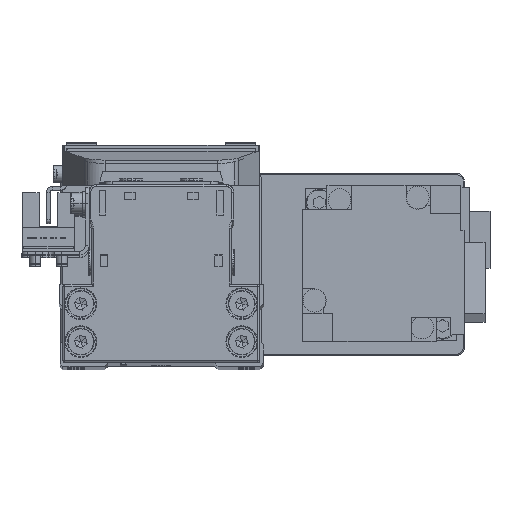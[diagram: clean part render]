
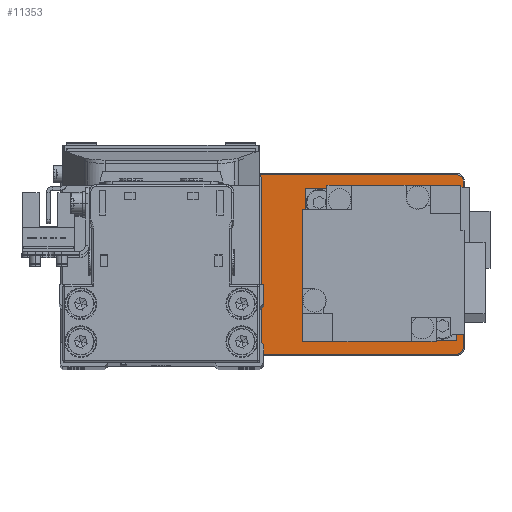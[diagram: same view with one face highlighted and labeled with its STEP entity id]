
A CAD part, top view. The second image highlights one B-rep face of the part: STEP entity #11353.
In plain terms, the highlighted planar face has unit normal (0, 0, 1).
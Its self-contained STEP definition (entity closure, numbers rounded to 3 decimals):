
#257 = EDGE_CURVE ( 'NONE', #39353, #20734, #26054, .T. ) ;
#439 = DIRECTION ( 'NONE',  ( 1., 0., 0. ) ) ;
#468 = EDGE_CURVE ( 'NONE', #15176, #7908, #20674, .T. ) ;
#718 = AXIS2_PLACEMENT_3D ( 'NONE', #22147, #34479, #6742 ) ;
#924 = LINE ( 'NONE', #13303, #2933 ) ;
#1296 = CIRCLE ( 'NONE', #23929, 1.7 ) ;
#1303 = DIRECTION ( 'NONE',  ( 0., 0., 1. ) ) ;
#2521 = CARTESIAN_POINT ( 'NONE',  ( -50., 23.7, 5. ) ) ;
#2780 = CARTESIAN_POINT ( 'NONE',  ( -50., -22., 5. ) ) ;
#2933 = VECTOR ( 'NONE', #25640, 1000. ) ;
#2996 = CARTESIAN_POINT ( 'NONE',  ( 51.7, -22., 5. ) ) ;
#3216 = AXIS2_PLACEMENT_3D ( 'NONE', #15842, #28196, #439 ) ;
#3332 = EDGE_LOOP ( 'NONE', ( #25758, #19381, #15311, #10023, #3749, #7030, #33551, #34114 ) ) ;
#3749 = ORIENTED_EDGE ( 'NONE', *, *, #10442, .T. ) ;
#4307 = VERTEX_POINT ( 'NONE', #29319 ) ;
#4320 = CARTESIAN_POINT ( 'NONE',  ( 50., -23.7, 5. ) ) ;
#4666 = CARTESIAN_POINT ( 'NONE',  ( -28., 0., 5. ) ) ;
#4702 = EDGE_CURVE ( 'NONE', #26954, #4307, #924, .T. ) ;
#4919 = CARTESIAN_POINT ( 'NONE',  ( -17.7, 0., 5. ) ) ;
#5280 = CARTESIAN_POINT ( 'NONE',  ( 50., 23.7, 5. ) ) ;
#6374 = ORIENTED_EDGE ( 'NONE', *, *, #16993, .T. ) ;
#6453 = ORIENTED_EDGE ( 'NONE', *, *, #468, .T. ) ;
#6681 = CARTESIAN_POINT ( 'NONE',  ( -28., 0., 5. ) ) ;
#6742 = DIRECTION ( 'NONE',  ( 1., 0., 0. ) ) ;
#7030 = ORIENTED_EDGE ( 'NONE', *, *, #30001, .T. ) ;
#7101 = CARTESIAN_POINT ( 'NONE',  ( -50., 23.7, 5. ) ) ;
#7115 = CIRCLE ( 'NONE', #29724, 10.3 ) ;
#7908 = VERTEX_POINT ( 'NONE', #22693 ) ;
#8233 = CARTESIAN_POINT ( 'NONE',  ( -38.3, 0., 5. ) ) ;
#8414 = CIRCLE ( 'NONE', #31061, 1.7 ) ;
#8677 = DIRECTION ( 'NONE',  ( 0., 0., 1. ) ) ;
#8915 = CARTESIAN_POINT ( 'NONE',  ( 50., -22., 5. ) ) ;
#10023 = ORIENTED_EDGE ( 'NONE', *, *, #23922, .T. ) ;
#10442 = EDGE_CURVE ( 'NONE', #25770, #18706, #30263, .T. ) ;
#10638 = DIRECTION ( 'NONE',  ( 0., 0., 1. ) ) ;
#10684 = DIRECTION ( 'NONE',  ( 0., -1., 0. ) ) ;
#11353 = ADVANCED_FACE ( 'NONE', ( #27083, #39435, #11716 ), #24065, .T. ) ;
#11716 = FACE_OUTER_BOUND ( 'NONE', #3332, .T. ) ;
#13003 = CARTESIAN_POINT ( 'NONE',  ( -51.7, 22., 5. ) ) ;
#13238 = VECTOR ( 'NONE', #16665, 1000. ) ;
#13303 = CARTESIAN_POINT ( 'NONE',  ( 51.7, 22., 5. ) ) ;
#13681 = DIRECTION ( 'NONE',  ( 1., 0., 0. ) ) ;
#14832 = CIRCLE ( 'NONE', #37482, 1.7 ) ;
#14880 = DIRECTION ( 'NONE',  ( -1., 0., 0. ) ) ;
#15138 = DIRECTION ( 'NONE',  ( 0., 0., 1. ) ) ;
#15176 = VERTEX_POINT ( 'NONE', #31646 ) ;
#15311 = ORIENTED_EDGE ( 'NONE', *, *, #4702, .T. ) ;
#15842 = CARTESIAN_POINT ( 'NONE',  ( 30., 0., 5. ) ) ;
#16665 = DIRECTION ( 'NONE',  ( 1., 0., 0. ) ) ;
#16993 = EDGE_CURVE ( 'NONE', #36305, #38362, #7115, .T. ) ;
#17019 = DIRECTION ( 'NONE',  ( 0., 0., -1. ) ) ;
#17854 = EDGE_LOOP ( 'NONE', ( #6374, #38492 ) ) ;
#18706 = VERTEX_POINT ( 'NONE', #7101 ) ;
#18869 = VERTEX_POINT ( 'NONE', #26521 ) ;
#19043 = DIRECTION ( 'NONE',  ( 0., 0., -1. ) ) ;
#19381 = ORIENTED_EDGE ( 'NONE', *, *, #33846, .T. ) ;
#20280 = EDGE_CURVE ( 'NONE', #38362, #36305, #39664, .T. ) ;
#20674 = CIRCLE ( 'NONE', #3216, 12.8 ) ;
#20734 = VERTEX_POINT ( 'NONE', #38007 ) ;
#21028 = DIRECTION ( 'NONE',  ( 1., 0., 0. ) ) ;
#21258 = DIRECTION ( 'NONE',  ( 0., 0., 1. ) ) ;
#22147 = CARTESIAN_POINT ( 'NONE',  ( 30., 0., 5. ) ) ;
#22232 = AXIS2_PLACEMENT_3D ( 'NONE', #6681, #19043, #31375 ) ;
#22693 = CARTESIAN_POINT ( 'NONE',  ( 17.2, 0., 5. ) ) ;
#22850 = VECTOR ( 'NONE', #14880, 1000. ) ;
#22978 = DIRECTION ( 'NONE',  ( 1., 0., 0. ) ) ;
#23170 = EDGE_CURVE ( 'NONE', #20734, #25136, #14832, .T. ) ;
#23402 = CIRCLE ( 'NONE', #28570, 1.7 ) ;
#23922 = EDGE_CURVE ( 'NONE', #4307, #25770, #8414, .T. ) ;
#23929 = AXIS2_PLACEMENT_3D ( 'NONE', #8915, #21258, #33604 ) ;
#24065 = PLANE ( 'NONE',  #35174 ) ;
#25136 = VERTEX_POINT ( 'NONE', #37770 ) ;
#25190 = VECTOR ( 'NONE', #10684, 1000. ) ;
#25640 = DIRECTION ( 'NONE',  ( 0., 1., 0. ) ) ;
#25758 = ORIENTED_EDGE ( 'NONE', *, *, #39106, .T. ) ;
#25770 = VERTEX_POINT ( 'NONE', #5280 ) ;
#26054 = LINE ( 'NONE', #38412, #25190 ) ;
#26521 = CARTESIAN_POINT ( 'NONE',  ( 50., -23.7, 5. ) ) ;
#26954 = VERTEX_POINT ( 'NONE', #2996 ) ;
#27083 = FACE_BOUND ( 'NONE', #35156, .T. ) ;
#27491 = DIRECTION ( 'NONE',  ( 1., 0., 0. ) ) ;
#27959 = EDGE_CURVE ( 'NONE', #7908, #15176, #35655, .T. ) ;
#28196 = DIRECTION ( 'NONE',  ( 0., 0., -1. ) ) ;
#28570 = AXIS2_PLACEMENT_3D ( 'NONE', #29041, #1303, #13681 ) ;
#29041 = CARTESIAN_POINT ( 'NONE',  ( -50., 22., 5. ) ) ;
#29319 = CARTESIAN_POINT ( 'NONE',  ( 51.7, 22., 5. ) ) ;
#29361 = DIRECTION ( 'NONE',  ( 1., 0., 0. ) ) ;
#29724 = AXIS2_PLACEMENT_3D ( 'NONE', #4666, #17019, #29361 ) ;
#30001 = EDGE_CURVE ( 'NONE', #18706, #39353, #23402, .T. ) ;
#30263 = LINE ( 'NONE', #2521, #22850 ) ;
#31061 = AXIS2_PLACEMENT_3D ( 'NONE', #38368, #10638, #22978 ) ;
#31375 = DIRECTION ( 'NONE',  ( 1., 0., 0. ) ) ;
#31646 = CARTESIAN_POINT ( 'NONE',  ( 42.8, 0., 5. ) ) ;
#32069 = LINE ( 'NONE', #4320, #13238 ) ;
#32465 = ORIENTED_EDGE ( 'NONE', *, *, #27959, .T. ) ;
#33551 = ORIENTED_EDGE ( 'NONE', *, *, #257, .T. ) ;
#33604 = DIRECTION ( 'NONE',  ( 1., 0., 0. ) ) ;
#33846 = EDGE_CURVE ( 'NONE', #18869, #26954, #1296, .T. ) ;
#34114 = ORIENTED_EDGE ( 'NONE', *, *, #23170, .T. ) ;
#34479 = DIRECTION ( 'NONE',  ( 0., 0., -1. ) ) ;
#35156 = EDGE_LOOP ( 'NONE', ( #6453, #32465 ) ) ;
#35174 = AXIS2_PLACEMENT_3D ( 'NONE', #36430, #8677, #21028 ) ;
#35655 = CIRCLE ( 'NONE', #718, 12.8 ) ;
#36305 = VERTEX_POINT ( 'NONE', #4919 ) ;
#36430 = CARTESIAN_POINT ( 'NONE',  ( 0., 0., 5. ) ) ;
#37482 = AXIS2_PLACEMENT_3D ( 'NONE', #2780, #15138, #27491 ) ;
#37770 = CARTESIAN_POINT ( 'NONE',  ( -50., -23.7, 5. ) ) ;
#38007 = CARTESIAN_POINT ( 'NONE',  ( -51.7, -22., 5. ) ) ;
#38362 = VERTEX_POINT ( 'NONE', #8233 ) ;
#38368 = CARTESIAN_POINT ( 'NONE',  ( 50., 22., 5. ) ) ;
#38412 = CARTESIAN_POINT ( 'NONE',  ( -51.7, -22., 5. ) ) ;
#38492 = ORIENTED_EDGE ( 'NONE', *, *, #20280, .T. ) ;
#39106 = EDGE_CURVE ( 'NONE', #25136, #18869, #32069, .T. ) ;
#39353 = VERTEX_POINT ( 'NONE', #13003 ) ;
#39435 = FACE_BOUND ( 'NONE', #17854, .T. ) ;
#39664 = CIRCLE ( 'NONE', #22232, 10.3 ) ;
